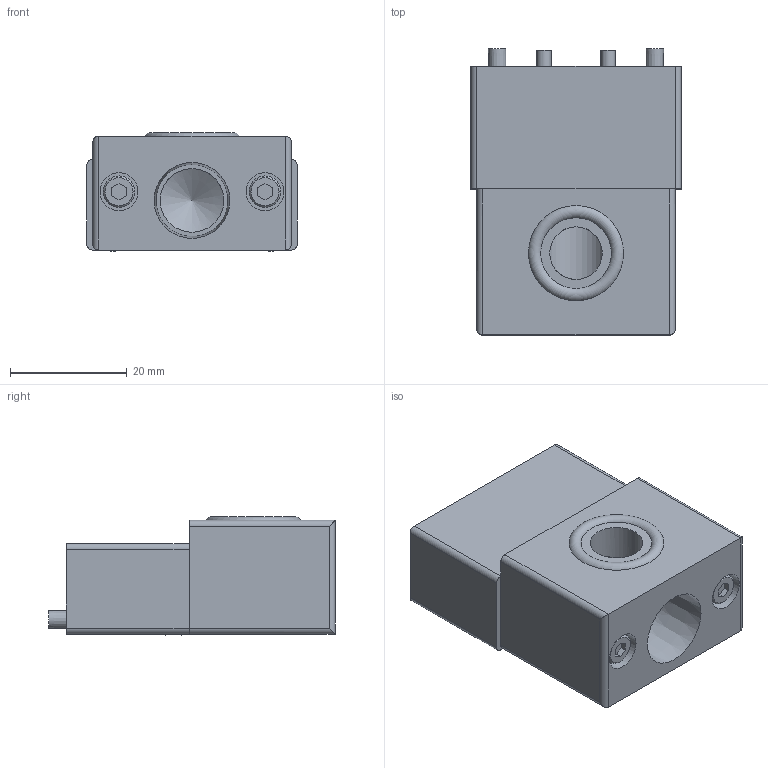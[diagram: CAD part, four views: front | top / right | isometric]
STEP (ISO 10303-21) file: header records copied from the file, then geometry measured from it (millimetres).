
FILE_DESCRIPTION(('STEP AP214'),'1');
FILE_NAME('KHG-12HS-EP81_ver1.stp','2026-05-18T00:52:12',(' '),(' '),'Spatial InterOp 3D',' ',' ');
FILE_SCHEMA(('AUTOMOTIVE_DESIGN { 1 0 10303 214 1 1 1 1 }'));
Length unit declared in the file: millimetre
Products named in the file (1): KHG-12HS-EP81_ver1
Bounding box: 36 x 49 x 20.3 mm (x, y, z)
Volume: 25256.1 mm3; surface area: 9311.3 mm2
Topology: 1 solids, 7 shells, 121 faces, 259 edges, 167 vertices
Faces by surface type: plane 76, cylinder 34, cone 10, torus 1
Full cylindrical faces by diameter (mm): 2.5 x6, 3 x4, 3.5 x4, 5.41 x4, 6.5 x2, 9 x1, 10.9 x1
Entity records: 4056 total; most frequent: CARTESIAN_POINT 576, DIRECTION 536, ORIENTED_EDGE 428, EDGE_CURVE 214, AXIS2_PLACEMENT_3D 201, EDGE_LOOP 176, VERTEX_POINT 157, FACE_OUTER_BOUND 144
